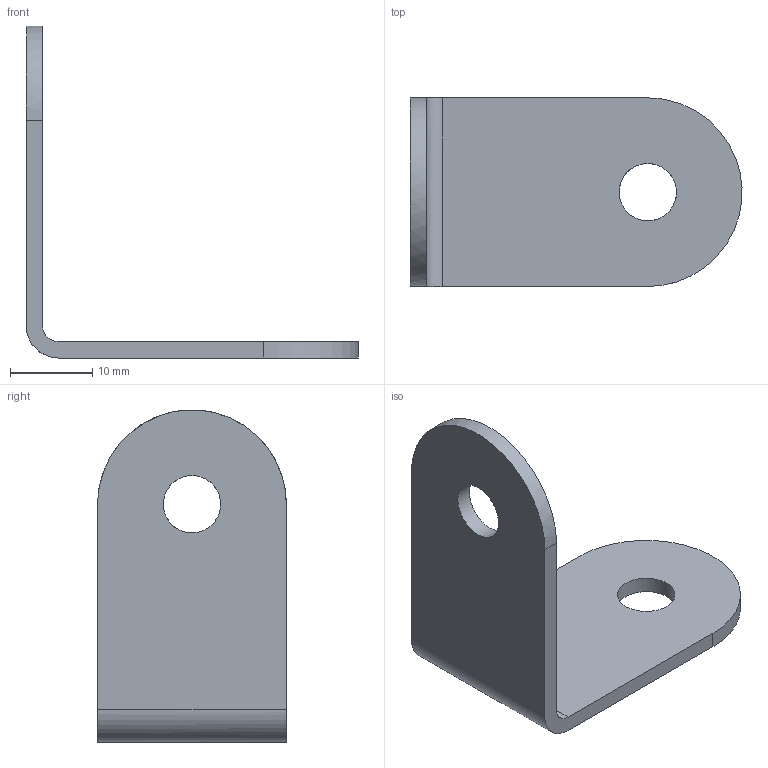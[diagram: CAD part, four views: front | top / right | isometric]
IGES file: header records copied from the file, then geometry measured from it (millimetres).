
Global section: file name: DR_S-AGS2340; native system: Autodesk Inventor 2015; preprocessor: unknown; author: Administrator; date: 20171012.162319; units: millimetre
Bounding box: 40.48 x 23 x 40.48 mm (x, y, z)
Volume: 3196 mm3; surface area: 3645.5 mm2
Topology: 1 solids, 1 shells, 12 faces, 30 edges, 20 vertices
Faces by surface type: bspline 12
